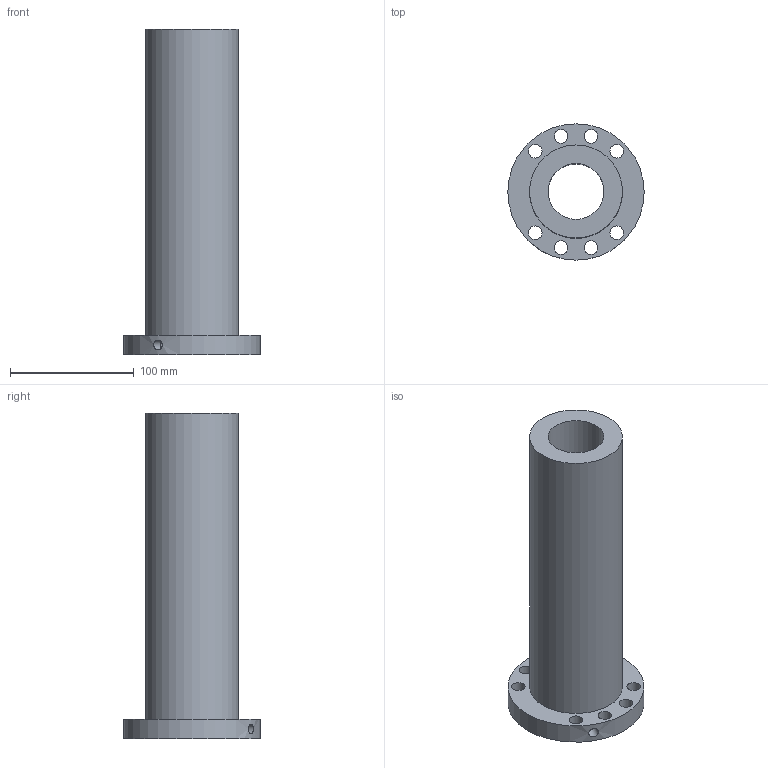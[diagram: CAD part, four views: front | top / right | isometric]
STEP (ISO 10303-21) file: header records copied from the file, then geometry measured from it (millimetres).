
FILE_DESCRIPTION(/* description */ (''),/* implementation_level */ '2;1');
FILE_NAME(/* name */ '45-25K4_635',/* time_stamp */ '2007-10-15T12:53:56+08:00',/* author */ (''),/* organization */ (''),/* preprocessor_version */ 'ST-DEVELOPER v11',/* originating_system */ 'UGS - NX 5.0',/* authorisation */ '');
FILE_SCHEMA (('CONFIG_CONTROL_DESIGN'));
Length unit declared in the file: millimetre
Products named in the file (1): 45-25K4_635
Bounding box: 110 x 110 x 263 mm (x, y, z)
Volume: 811680.1 mm3; surface area: 120255.5 mm2
Topology: 1 solids, 1 shells, 17 faces, 40 edges, 27 vertices
Faces by surface type: cylinder 13, plane 4
Full cylindrical faces by diameter (mm): 6 x1, 8 x1, 11 x8, 45 x1, 75 x1, 110 x1
Entity records: 668 total; most frequent: CARTESIAN_POINT 184, DIRECTION 84, FACE_BOUND 52, EDGE_LOOP 52, ORIENTED_EDGE 52, AXIS2_PLACEMENT_3D 42, VERTEX_POINT 26, EDGE_CURVE 26
